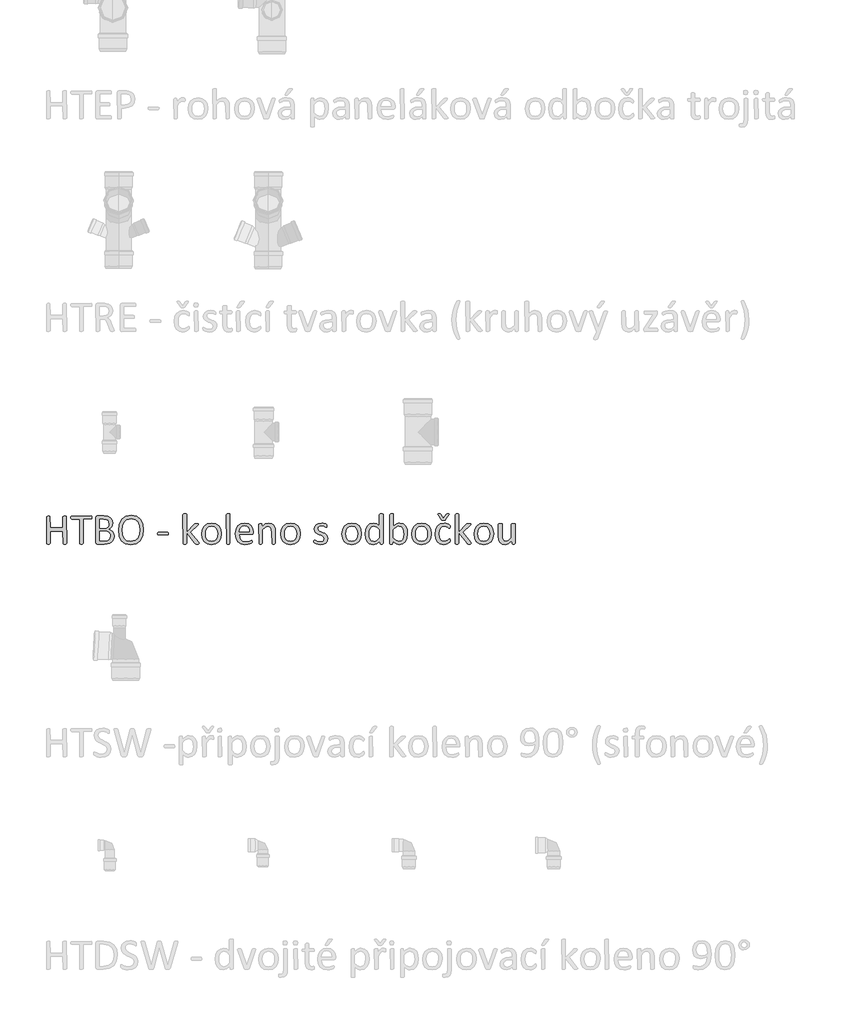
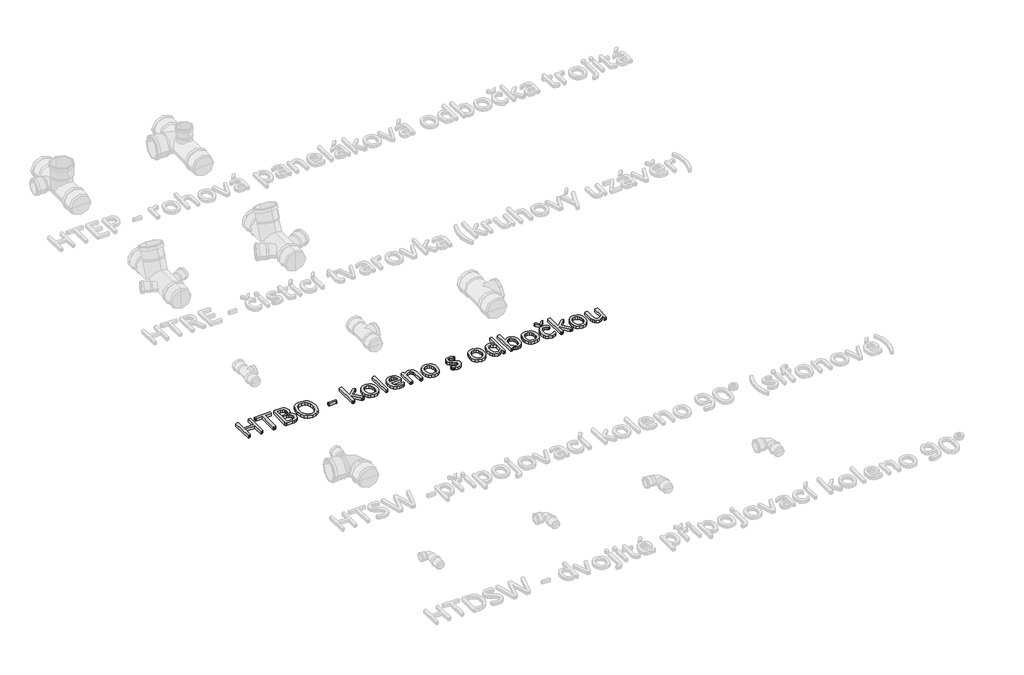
# One storey, part 7 of 26: 1 proxy.
"""IFC4 building model written with IfcOpenShell, lengths in millimetres."""

from ifc_helpers import new_model, si_unit, origin, origin_with_axes, place, context, project, spatial, polyline, outline, extrude, element, save

model = new_model("IFC4")

# Units and contexts
model_context = context("Model", 3, world=origin())
ifc_project = project(units=[si_unit("LENGTHUNIT", "METRE", prefix="MILLI")], contexts=[model_context])

# Site, building, storey
site = spatial("IfcSite", under=ifc_project)
building = spatial("IfcBuilding", under=site)
storey = spatial("IfcBuildingStorey", under=building, Name="Podlaží 1", Elevation=0.0)

# Proxy
placement = place(None, origin())
element("IfcBuildingElementProxy", 1, Name="120mm Arial", ObjectType="120mm Arial", at=placement, inside=storey, context=model_context, shape_type="SweptSolid", body=[
    extrude(outline(polyline([(-20465.0657483, -1221.9493003), (-20469.2817655, -1224.6815689), (-20473.1358927, -1224.9167974), (-20477.1166815, -1224.6815689), (-20479.5775327, -1224.1387341), (-20481.2784151, -1169.3305111), (-20534.5486061, -1169.3305111), (-20534.5486061, -1221.9854893), (-20538.7465288, -1224.6815689), (-20542.6549395, -1224.9167974), (-20546.5271613, -1224.6815689), (-20549.0603905, -1224.1206396), (-20550.7612729, -1107.4473409), (-20546.5271613, -1104.7150723), (-20542.6549395, -1104.4798438), (-20538.7465288, -1104.7150723), (-20536.2494886, -1105.2760016), (-20534.5486061, -1155.4339396), (-20481.2784151, -1155.4339396), (-20481.2784151, -1107.4473409), (-20477.1166815, -1104.7150723), (-20473.1358927, -1104.4798438), (-20469.2817655, -1104.7150723), (-20466.7666308, -1105.2760016), (-20465.0657483, -1221.9493003)])), origin_with_axes(), (0.0, 0.0, 1.0), 15.0),
    extrude(outline(polyline([(-20356.2092711, -1111.5366966), (-20356.390216, -1114.6670441), (-20356.9873343, -1116.8021944), (-20393.2667952, -1118.3764154), (-20393.2667952, -1221.9493003), (-20397.4647179, -1224.6815689), (-20401.3731287, -1224.9167974), (-20405.2453504, -1224.6815689), (-20407.7785796, -1224.1206396), (-20409.4794621, -1118.3764154), (-20443.3885442, -1118.3764154), (-20446.3017578, -1114.6670441), (-20446.5369862, -1111.5366966), (-20446.3017578, -1108.3339711), (-20445.686545, -1106.0902538), (-20359.3939021, -1104.4798438), (-20357.0054288, -1106.0902538), (-20356.390216, -1108.3339711), (-20356.2092711, -1111.5366966)])), origin_with_axes(), (0.0, 0.0, 1.0), 15.0),
    extrude(outline(polyline([(-20261.2493654, -1190.8629592), (-20262.6788305, -1201.1768209), (-20266.6958082, -1209.6812332), (-20272.9203142, -1216.2857236), (-20281.1352146, -1221.0626701), (-20290.9243359, -1223.9577892), (-20302.8667021, -1224.9167974), (-20334.0977991, -1224.9167974), (-20338.0966824, -1223.4692378), (-20339.9966043, -1218.4027794), (-20339.9966043, -1110.9938618), (-20338.0785879, -1105.9274034), (-20334.0254212, -1104.4798438), (-20306.6665459, -1104.4798438), (-20288.9520361, -1106.5607107), (-20277.4620322, -1112.6042717), (-20270.531841, -1122.3391096), (-20268.1976512, -1135.38524), (-20269.2290374, -1143.6906128), (-20272.2508179, -1151.018883), (-20277.2810873, -1157.0262551), (-20284.2293731, -1161.3689337), (-20275.2545039, -1164.7164151), (-20267.9805173, -1170.9228266), (-20263.0588148, -1179.7348453), (-20261.2493654, -1190.8629592)]), holes=[polyline([(-20284.410318, -1137.5565793), (-20285.6226491, -1129.5588128), (-20289.4224929, -1123.4971573), (-20296.1898338, -1119.6973135), (-20307.2455697, -1118.3764154), (-20323.7839374, -1118.3764154), (-20323.7839374, -1157.7500348), (-20305.5808763, -1157.7500348), (-20295.5565265, -1156.1034359), (-20289.241548, -1151.6883793), (-20285.5683657, -1145.2105503), (-20284.410318, -1137.5565793)]), polyline([(-20277.4620322, -1191.0077152), (-20279.1629147, -1181.6709562), (-20284.1389006, -1174.9036153), (-20292.353801, -1170.7418817), (-20304.7847185, -1169.3305111), (-20323.7839374, -1169.3305111), (-20323.7839374, -1211.0202258), (-20300.7315518, -1211.0202258), (-20291.2138479, -1209.7355167), (-20284.0665226, -1205.9356729), (-20279.2171982, -1199.6749779), (-20277.4620322, -1191.0077152)])]), origin_with_axes(), (0.0, 0.0, 1.0), 15.0),
    extrude(outline(polyline([(-20136.1802214, -1163.2869501), (-20139.5819863, -1189.8496676), (-20149.751092, -1210.0069341), (-20166.7418221, -1222.781647), (-20190.60846, -1227.2328926), (-20213.8417906, -1223.1435369), (-20230.0544574, -1211.2735487), (-20239.5902558, -1191.9305344), (-20242.7206033, -1165.3497224), (-20239.3188384, -1139.2574617), (-20229.0954492, -1119.2992346), (-20212.0504356, -1106.6149942), (-20188.2199868, -1102.1637486), (-20165.2761681, -1106.1988208), (-20149.0273123, -1117.9783365), (-20139.3648524, -1137.1404059), (-20136.1802214, -1163.2869501)]), holes=[polyline([(-20152.3928882, -1164.5173757), (-20154.2204321, -1145.3010228), (-20160.2820877, -1129.9026082), (-20171.6092411, -1119.715408), (-20189.1609005, -1116.0603201), (-20206.7125598, -1120.0049199), (-20218.2387527, -1130.517821), (-20224.5899201, -1145.8619521), (-20226.5079365, -1164.3364307), (-20224.7346761, -1184.0413349), (-20218.763493, -1199.5845055), (-20207.5087176, -1209.7174222), (-20189.8123022, -1213.3363211), (-20172.0977924, -1209.3917213), (-20160.5173161, -1198.7340642), (-20154.2566211, -1183.1908937), (-20152.3928882, -1164.5173757)])]), origin_with_axes(), (0.0, 0.0, 1.0), 15.0),
    extrude(outline(polyline([(-20029.6398394, -1179.7167508), (-20030.4902807, -1184.2765633), (-20032.9692264, -1185.5431779), (-20072.5599797, -1185.5431779), (-20075.1113034, -1184.2403744), (-20075.9617446, -1179.7167508), (-20075.1113034, -1175.2293162), (-20072.5599797, -1173.9627016), (-20032.9692264, -1173.9627016), (-20029.8750678, -1177.0025767), (-20029.6398394, -1179.7167508)])), origin_with_axes(), (0.0, 0.0, 1.0), 15.0),
    extrude(outline(polyline([(-19897.6224096, -1221.9854893), (-19901.6936708, -1224.7358524), (-19905.692554, -1224.9167974), (-19909.8180987, -1224.7720414), (-19912.5684618, -1224.3196791), (-19914.3779112, -1223.4149543), (-19915.6445258, -1221.9854893), (-19950.8926006, -1176.4235529), (-19950.8926006, -1222.0940563), (-19955.0181453, -1224.7358524), (-19959.035123, -1224.9167974), (-19962.9797227, -1224.7358524), (-19965.4767629, -1224.1749231), (-19967.1052674, -1098.1829599), (-19962.9797227, -1095.3964077), (-19959.035123, -1095.2154628), (-19955.0181453, -1095.3964077), (-19952.5753885, -1095.9573371), (-19951.2906795, -1096.8982508), (-19950.8926006, -1174.3245915), (-19918.6844009, -1140.0898085), (-19917.0739909, -1138.5879654), (-19915.0474075, -1137.5927683), (-19912.2608554, -1137.0499334), (-19908.3705392, -1136.9051775), (-19904.3897504, -1137.0499334), (-19901.8022378, -1137.5022958), (-19900.3727727, -1138.316548), (-19900.5718122, -1141.8449744), (-19902.688868, -1144.3962981), (-19934.6799338, -1174.2160246), (-19899.9023159, -1217.6789997), (-19898.1471499, -1220.1941344), (-19897.6224096, -1221.9854893)])), origin_with_axes(), (0.0, 0.0, 1.0), 15.0),
    extrude(outline(polyline([(-19802.6625039, -1180.0062627), (-19805.3404891, -1198.9873871), (-19813.35635, -1213.9334394), (-19826.7100868, -1223.7225607), (-19845.2931323, -1227.2328926), (-19863.2066816, -1224.1387341), (-19875.9452055, -1215.1457705), (-19883.5448931, -1200.8149311), (-19886.0419333, -1181.7071452), (-19883.4001371, -1162.7260207), (-19875.4385597, -1147.798063), (-19862.1391064, -1138.0632251), (-19843.5198719, -1134.5890822), (-19825.5882281, -1137.6832407), (-19812.8497042, -1146.6762044), (-19805.2138276, -1161.0070438), (-19802.6625039, -1180.0062627)]), holes=[polyline([(-19818.8751708, -1181.0919324), (-19820.1236909, -1168.5162589), (-19824.2311411, -1158.1300192), (-19831.9574901, -1151.0731665), (-19844.1350847, -1148.4856538), (-19855.6974665, -1150.8560325), (-19863.659044, -1157.5509954), (-19868.309329, -1167.7924791), (-19869.8292665, -1180.7300425), (-19868.5807464, -1193.3780939), (-19864.4371072, -1203.7281446), (-19856.6564747, -1210.7488084), (-19844.4969746, -1213.3363211), (-19832.9707818, -1210.9659423), (-19824.9549208, -1204.3252629), (-19820.3408248, -1194.1199682), (-19818.8751708, -1181.0919324)])]), origin_with_axes(), (0.0, 0.0, 1.0), 15.0),
    extrude(outline(polyline([(-19765.6049798, -1222.0578673), (-19769.7305245, -1224.7358524), (-19773.7475022, -1224.9167974), (-19777.6921019, -1224.7358524), (-19780.1891421, -1224.1749231), (-19781.8176466, -1098.1829599), (-19777.6921019, -1095.3964077), (-19773.7475022, -1095.2154628), (-19769.7305245, -1095.3964077), (-19767.2877677, -1095.9573371), (-19765.6049798, -1222.0578673)])), origin_with_axes(), (0.0, 0.0, 1.0), 15.0),
    extrude(outline(polyline([(-19666.0128836, -1176.6044978), (-19667.8042385, -1181.7071452), (-19671.9116887, -1183.2270827), (-19726.2313604, -1183.2270827), (-19724.8742733, -1196.6170084), (-19720.3687442, -1206.8223031), (-19712.1538439, -1213.3725101), (-19699.7772098, -1215.6524163), (-19689.4995371, -1214.5848412), (-19681.6827156, -1212.1782734), (-19676.2724618, -1209.7717057), (-19673.0697363, -1208.7041305), (-19670.7717356, -1211.5992496), (-19670.6450741, -1214.2410458), (-19670.7355466, -1216.1771567), (-19675.1867922, -1221.5693159), (-19681.5379596, -1224.0663561), (-19690.5852068, -1226.2557899), (-19701.5504702, -1227.2328926), (-19719.2287911, -1224.3377735), (-19731.9854095, -1215.7247943), (-19739.802231, -1201.3758604), (-19742.4440272, -1181.3452553), (-19739.6755696, -1161.8032015), (-19731.6958976, -1147.1104722), (-19719.1021296, -1137.8279967), (-19702.5637619, -1134.5890822), (-19685.9168272, -1137.7194297), (-19674.6077684, -1146.151464), (-19668.0937504, -1158.5823816), (-19666.0128836, -1173.8179457), (-19666.0128836, -1176.6044978)]), holes=[polyline([(-19682.2255504, -1171.6466064), (-19683.3971689, -1161.0206147), (-19687.4186703, -1152.9549939), (-19694.1905347, -1147.8659174), (-19703.6132426, -1146.1695585), (-19713.257608, -1148.2685199), (-19720.1877993, -1153.8597186), (-19724.5123834, -1161.9841465), (-19726.2313604, -1171.6466064), (-19682.2255504, -1171.6466064)])]), origin_with_axes(), (0.0, 0.0, 1.0), 15.0),
    extrude(outline(polyline([(-19571.0529779, -1222.0578673), (-19575.1785226, -1224.7358524), (-19579.1231224, -1224.9167974), (-19583.1401001, -1224.7358524), (-19585.5828568, -1224.1930176), (-19587.2656448, -1173.7093787), (-19588.3332199, -1162.3460364), (-19591.4273784, -1154.9091992), (-19596.6928762, -1150.1322528), (-19604.1659024, -1148.4856538), (-19615.1492604, -1152.520726), (-19626.6392642, -1164.3726197), (-19626.6392642, -1222.0578673), (-19630.7648089, -1224.7358524), (-19634.7817866, -1224.9167974), (-19638.7263863, -1224.7358524), (-19641.2234265, -1224.1930176), (-19642.851931, -1139.7279186), (-19639.1244652, -1137.0499334), (-19635.4693774, -1136.9051775), (-19631.8866675, -1137.0499334), (-19629.6791392, -1137.5927683), (-19628.1953907, -1150.6208041), (-19614.3531026, -1138.4432095), (-19600.4384366, -1134.5890822), (-19586.614243, -1137.4118233), (-19577.5308069, -1144.9572274), (-19572.554821, -1156.0129634), (-19571.0529779, -1171.2485275), (-19571.0529779, -1222.0578673)])), origin_with_axes(), (0.0, 0.0, 1.0), 15.0),
    extrude(outline(polyline([(-19464.512596, -1180.0062627), (-19467.1905811, -1198.9873871), (-19475.2064421, -1213.9334394), (-19488.5601788, -1223.7225607), (-19507.1432244, -1227.2328926), (-19525.0567736, -1224.1387341), (-19537.7952976, -1215.1457705), (-19545.3949851, -1200.8149311), (-19547.8920253, -1181.7071452), (-19545.2502292, -1162.7260207), (-19537.2886517, -1147.798063), (-19523.9891985, -1138.0632251), (-19505.3699639, -1134.5890822), (-19487.4383202, -1137.6832407), (-19474.6997962, -1146.6762044), (-19467.0639197, -1161.0070438), (-19464.512596, -1180.0062627)]), holes=[polyline([(-19480.7252628, -1181.0919324), (-19481.9737829, -1168.5162589), (-19486.0812331, -1158.1300192), (-19493.8075821, -1151.0731665), (-19505.9851767, -1148.4856538), (-19517.5475585, -1150.8560325), (-19525.509136, -1157.5509954), (-19530.159421, -1167.7924791), (-19531.6793585, -1180.7300425), (-19530.4308384, -1193.3780939), (-19526.2871992, -1203.7281446), (-19518.5065667, -1210.7488084), (-19506.3470666, -1213.3363211), (-19494.8208738, -1210.9659423), (-19486.8050129, -1204.3252629), (-19482.1909168, -1194.1199682), (-19480.7252628, -1181.0919324)])]), origin_with_axes(), (0.0, 0.0, 1.0), 15.0),
    extrude(outline(polyline([(-19346.3917377, -1200.1635293), (-19348.7983055, -1211.6897221), (-19355.6561188, -1220.2122289), (-19366.2413979, -1225.4596322), (-19379.7579851, -1227.2328926), (-19388.4252478, -1226.4005459), (-19395.7897069, -1224.2834901), (-19401.3085277, -1221.6055049), (-19404.6198201, -1219.0903702), (-19406.1397576, -1216.4304796), (-19406.6102145, -1212.2144624), (-19406.4292695, -1209.4821938), (-19405.9588127, -1207.6908389), (-19401.0009213, -1207.8355948), (-19396.0792188, -1211.0202258), (-19389.1490276, -1214.2048568), (-19379.975119, -1215.6524163), (-19372.9182662, -1214.7657861), (-19367.4356345, -1212.1420844), (-19363.8529246, -1207.7270279), (-19362.6044045, -1201.3939549), (-19364.3957595, -1195.4046773), (-19369.1546114, -1191.0800932), (-19375.7952908, -1187.7507062), (-19383.3949784, -1184.7108312), (-19391.0489495, -1181.1100269), (-19397.7439123, -1176.1883244), (-19402.5027643, -1169.2581331), (-19404.2941192, -1159.5956732), (-19402.3761028, -1150.0960638), (-19396.6220537, -1142.1344863), (-19387.0319717, -1136.6518546), (-19373.569668, -1134.5890822), (-19366.8385162, -1135.204295), (-19360.7587661, -1136.7604215), (-19356.1265756, -1138.7870049), (-19353.2314565, -1140.7050213), (-19351.928653, -1142.0802028), (-19351.1686842, -1144.9210384), (-19351.0239282, -1147.3276062), (-19351.1686842, -1149.9513078), (-19351.639141, -1151.7788517), (-19356.0180086, -1152.0140802), (-19360.2340258, -1149.6437014), (-19366.3137759, -1147.2733227), (-19374.2934478, -1146.1695585), (-19381.3864895, -1147.0923777), (-19386.4167589, -1149.7160794), (-19389.384256, -1153.7330571), (-19390.3975477, -1158.7633265), (-19388.4795313, -1164.89736), (-19383.4673564, -1169.2581331), (-19376.4285981, -1172.6237091), (-19368.3946427, -1175.6997731), (-19360.3064038, -1179.2643885), (-19353.2314565, -1184.0413349), (-19348.2735651, -1190.7905813), (-19346.3917377, -1200.1635293)])), origin_with_axes(), (0.0, 0.0, 1.0), 15.0),
    extrude(outline(polyline([(-19202.7938316, -1180.0062627), (-19205.4718167, -1198.9873871), (-19213.4876777, -1213.9334394), (-19226.8414144, -1223.7225607), (-19245.42446, -1227.2328926), (-19263.3380093, -1224.1387341), (-19276.0765332, -1215.1457705), (-19283.6762208, -1200.8149311), (-19286.173261, -1181.7071452), (-19283.5314648, -1162.7260207), (-19275.5698873, -1147.798063), (-19262.2704341, -1138.0632251), (-19243.6511995, -1134.5890822), (-19225.7195558, -1137.6832407), (-19212.9810318, -1146.6762044), (-19205.3451553, -1161.0070438), (-19202.7938316, -1180.0062627)]), holes=[polyline([(-19219.0064984, -1181.0919324), (-19220.2550185, -1168.5162589), (-19224.3624687, -1158.1300192), (-19232.0888177, -1151.0731665), (-19244.2664123, -1148.4856538), (-19255.8287942, -1150.8560325), (-19263.7903716, -1157.5509954), (-19268.4406566, -1167.7924791), (-19269.9605941, -1180.7300425), (-19268.712074, -1193.3780939), (-19264.5684349, -1203.7281446), (-19256.7878023, -1210.7488084), (-19244.6283022, -1213.3363211), (-19233.1021094, -1210.9659423), (-19225.0862485, -1204.3252629), (-19220.4721525, -1194.1199682), (-19219.0064984, -1181.0919324)])]), origin_with_axes(), (0.0, 0.0, 1.0), 15.0),
    extrude(outline(polyline([(-19110.4757221, -1222.0216783), (-19113.8593925, -1224.7358524), (-19117.170685, -1224.9167974), (-19120.6086389, -1224.7358524), (-19122.8523561, -1224.2653956), (-19124.5170496, -1211.9611395), (-19137.9612588, -1223.1978204), (-19153.2149174, -1227.2328926), (-19168.6314265, -1223.6320883), (-19178.9633827, -1213.8972504), (-19184.7536209, -1199.457844), (-19186.5811648, -1181.9966571), (-19184.3012585, -1162.3641309), (-19177.5701067, -1147.4180786), (-19166.5324652, -1137.9184692), (-19151.2969011, -1134.5890822), (-19138.1422038, -1137.8279967), (-19126.362688, -1147.3276062), (-19126.362688, -1098.2191488), (-19124.6979946, -1096.0116206), (-19122.2009543, -1095.4506912), (-19118.3649216, -1095.2154628), (-19114.3479439, -1095.4506912), (-19111.9051871, -1096.0116206), (-19110.5842891, -1096.9344398), (-19110.4757221, -1222.0216783)]), holes=[polyline([(-19126.362688, -1163.8297849), (-19137.9793533, -1152.412159), (-19149.6683966, -1148.4856538), (-19159.2584785, -1151.2360169), (-19165.6639295, -1158.4919091), (-19169.2466393, -1168.6972038), (-19170.368498, -1180.2595856), (-19169.4275843, -1192.4914637), (-19166.1524808, -1203.0948373), (-19159.9641638, -1210.5316745), (-19150.2836094, -1213.3363211), (-19144.6019382, -1212.5220688), (-19138.992645, -1209.8259892), (-19133.0033674, -1204.9404757), (-19126.362688, -1197.5217331), (-19126.362688, -1163.8297849)])]), origin_with_axes(), (0.0, 0.0, 1.0), 15.0),
    extrude(outline(polyline([(-19005.9257345, -1179.8253178), (-19008.2418298, -1199.5483165), (-19015.0634541, -1214.4943687), (-19026.1372845, -1223.9577892), (-19041.1738092, -1227.2328926), (-19048.4116069, -1226.4367349), (-19054.9256248, -1223.8492222), (-19061.2948868, -1219.3436931), (-19068.0260387, -1212.7934862), (-19068.0260387, -1222.2388122), (-19071.9163549, -1224.7358524), (-19075.3000253, -1224.9167974), (-19078.6294123, -1224.7358524), (-19080.891224, -1224.2292066), (-19082.3568781, -1098.1829599), (-19078.2313334, -1095.3964077), (-19074.2867337, -1095.2154628), (-19070.2697559, -1095.3964077), (-19067.8269992, -1095.9573371), (-19066.5422901, -1096.8982508), (-19066.1442113, -1148.4494648), (-19059.105453, -1141.9897304), (-19052.4285846, -1137.7194297), (-19045.8964722, -1135.3309565), (-19039.0024699, -1134.5890822), (-19023.7850003, -1138.2441701), (-19013.5073276, -1148.0332914), (-19007.7351839, -1162.4184143), (-19005.9257345, -1179.8253178)]), holes=[polyline([(-19022.1384013, -1181.5985782), (-19023.079315, -1169.2762276), (-19026.372513, -1158.6909485), (-19032.5789245, -1151.2903004), (-19042.2232899, -1148.4856538), (-19047.8687721, -1149.299906), (-19053.5323488, -1152.0140802), (-19059.5216264, -1156.8814991), (-19066.1442113, -1164.3726197), (-19066.1442113, -1197.99219), (-19054.455168, -1209.4098158), (-19042.8385027, -1213.3363211), (-19033.3027043, -1210.5678634), (-19026.8610643, -1203.2576878), (-19023.26026, -1193.052393), (-19022.1384013, -1181.5985782)])]), origin_with_axes(), (0.0, 0.0, 1.0), 15.0),
    extrude(outline(polyline([(-18904.0175431, -1180.0062627), (-18906.6955282, -1198.9873871), (-18914.7113891, -1213.9334394), (-18928.0651259, -1223.7225607), (-18946.6481714, -1227.2328926), (-18964.5617207, -1224.1387341), (-18977.3002446, -1215.1457705), (-18984.8999322, -1200.8149311), (-18987.3969724, -1181.7071452), (-18984.7551763, -1162.7260207), (-18976.7935988, -1147.798063), (-18963.4941456, -1138.0632251), (-18944.874911, -1134.5890822), (-18926.9432672, -1137.6832407), (-18914.2047433, -1146.6762044), (-18906.5688667, -1161.0070438), (-18904.0175431, -1180.0062627)]), holes=[polyline([(-18920.2302099, -1181.0919324), (-18921.47873, -1168.5162589), (-18925.5861802, -1158.1300192), (-18933.3125292, -1151.0731665), (-18945.4901238, -1148.4856538), (-18957.0525056, -1150.8560325), (-18965.0140831, -1157.5509954), (-18969.6643681, -1167.7924791), (-18971.1843056, -1180.7300425), (-18969.9357855, -1193.3780939), (-18965.7921463, -1203.7281446), (-18958.0115138, -1210.7488084), (-18945.8520137, -1213.3363211), (-18934.3258209, -1210.9659423), (-18926.3099599, -1204.3252629), (-18921.6958639, -1194.1199682), (-18920.2302099, -1181.0919324)])]), origin_with_axes(), (0.0, 0.0, 1.0), 15.0),
    extrude(outline(polyline([(-18822.954209, -1208.2698627), (-18823.0446814, -1210.8030919), (-18823.3703823, -1212.6125413), (-18825.3607767, -1216.2495346), (-18829.2510929, -1219.777961), (-18835.4213155, -1223.5235213), (-18842.8581526, -1226.2015065), (-18851.1816199, -1227.2328926), (-18866.8876409, -1224.2292066), (-18878.3414558, -1215.4533769), (-18885.380214, -1201.3034824), (-18887.8048762, -1181.9604681), (-18884.8373792, -1160.5184924), (-18876.7129513, -1145.8438576), (-18864.5715457, -1137.3575398), (-18849.4445485, -1134.5890822), (-18841.8086719, -1135.4033345), (-18835.0051421, -1137.5384848), (-18829.4682269, -1140.5783598), (-18825.957895, -1143.5277624), (-18824.456052, -1145.4638733), (-18823.7684612, -1147.0019053), (-18823.4065713, -1148.9018272), (-18823.3160988, -1151.5617178), (-18824.1303511, -1156.3748533), (-18826.102651, -1157.7500348), (-18829.2329985, -1156.3024753), (-18833.7023385, -1153.1178443), (-18840.2706399, -1149.9332133), (-18849.3359815, -1148.4856538), (-18858.8582091, -1150.5846151), (-18865.8562548, -1156.8814991), (-18870.1582208, -1167.1772663), (-18871.5922094, -1181.2728773), (-18870.1084609, -1195.2780158), (-18865.7295933, -1205.3385546), (-18858.6184571, -1211.3640212), (-18848.9740916, -1213.3363211), (-18839.944939, -1211.5087771), (-18833.2137872, -1207.4917994), (-18828.4187462, -1203.5291052), (-18825.3788712, -1201.7558448), (-18823.0808704, -1205.3204601), (-18822.954209, -1208.2698627)])), origin_with_axes(), (0.0, 0.0, 1.0), 15.0),
    extrude(outline(polyline([(-18840.3249234, -1097.8934479), (-18839.1668758, -1096.6087389), (-18835.8736778, -1095.3421243), (-18832.9785588, -1095.2154628), (-18829.1968095, -1095.5230692), (-18827.38736, -1096.4096994), (-18828.7444471, -1100.2095432), (-18843.6904993, -1120.6925107), (-18844.8666415, -1121.8505583), (-18846.4589569, -1122.5200546), (-18848.7750522, -1122.8819445), (-18852.1225336, -1123.0086059), (-18855.2709756, -1122.8819445), (-18857.4965984, -1122.4838656), (-18859.0346304, -1121.7600858), (-18875.0663523, -1100.2095432), (-18876.4596284, -1097.9839204), (-18874.5597065, -1095.5230692), (-18870.7960517, -1095.2154628), (-18867.6837987, -1095.3421243), (-18865.8019713, -1095.7944866), (-18863.485876, -1097.8934479), (-18851.9053997, -1114.0699258), (-18840.3249234, -1097.8934479)])), origin_with_axes(), (0.0, 0.0, 1.0), 15.0),
    extrude(outline(polyline([(-18732.6264938, -1221.9854893), (-18736.697755, -1224.7358524), (-18740.6966382, -1224.9167974), (-18744.8221829, -1224.7720414), (-18747.572546, -1224.3196791), (-18749.3819955, -1223.4149543), (-18750.6486101, -1221.9854893), (-18785.8966848, -1176.4235529), (-18785.8966848, -1222.0940563), (-18790.0222295, -1224.7358524), (-18794.0392072, -1224.9167974), (-18797.9838069, -1224.7358524), (-18800.4808471, -1224.1749231), (-18802.1093516, -1098.1829599), (-18797.9838069, -1095.3964077), (-18794.0392072, -1095.2154628), (-18790.0222295, -1095.3964077), (-18787.5794728, -1095.9573371), (-18786.2947637, -1096.8982508), (-18785.8966848, -1174.3245915), (-18753.6884851, -1140.0898085), (-18752.0780751, -1138.5879654), (-18750.0514918, -1137.5927683), (-18747.2649396, -1137.0499334), (-18743.3746234, -1136.9051775), (-18739.3938347, -1137.0499334), (-18736.806322, -1137.5022958), (-18735.3768569, -1138.316548), (-18735.5758964, -1141.8449744), (-18737.6929522, -1144.3962981), (-18769.684018, -1174.2160246), (-18734.9064001, -1217.6789997), (-18733.1512342, -1220.1941344), (-18732.6264938, -1221.9854893)])), origin_with_axes(), (0.0, 0.0, 1.0), 15.0),
    extrude(outline(polyline([(-18637.6665882, -1180.0062627), (-18640.3445733, -1198.9873871), (-18648.3604342, -1213.9334394), (-18661.714171, -1223.7225607), (-18680.2972165, -1227.2328926), (-18698.2107658, -1224.1387341), (-18710.9492897, -1215.1457705), (-18718.5489773, -1200.8149311), (-18721.0460175, -1181.7071452), (-18718.4042214, -1162.7260207), (-18710.4426439, -1147.798063), (-18697.1431907, -1138.0632251), (-18678.5239561, -1134.5890822), (-18660.5923123, -1137.6832407), (-18647.8537884, -1146.6762044), (-18640.2179118, -1161.0070438), (-18637.6665882, -1180.0062627)]), holes=[polyline([(-18653.879255, -1181.0919324), (-18655.1277751, -1168.5162589), (-18659.2352253, -1158.1300192), (-18666.9615743, -1151.0731665), (-18679.1391689, -1148.4856538), (-18690.7015507, -1150.8560325), (-18698.6631282, -1157.5509954), (-18703.3134132, -1167.7924791), (-18704.8333507, -1180.7300425), (-18703.5848306, -1193.3780939), (-18699.4411914, -1203.7281446), (-18691.6605589, -1210.7488084), (-18679.5010588, -1213.3363211), (-18667.974866, -1210.9659423), (-18659.959005, -1204.3252629), (-18655.344909, -1194.1199682), (-18653.879255, -1181.0919324)])]), origin_with_axes(), (0.0, 0.0, 1.0), 15.0),
    extrude(outline(polyline([(-18545.0227778, -1222.0940563), (-18548.876905, -1224.7358524), (-18552.3329534, -1224.9167974), (-18556.0242302, -1224.7358524), (-18558.2679475, -1224.1930176), (-18559.6793181, -1211.2011707), (-18573.5577951, -1223.3968599), (-18587.4362722, -1227.2328926), (-18601.2604658, -1224.4463405), (-18610.3439019, -1216.9009364), (-18615.3198878, -1205.790917), (-18616.8217308, -1190.3563134), (-18616.8217308, -1139.7641076), (-18615.1570373, -1137.6108628), (-18612.6238082, -1137.0499334), (-18608.7153974, -1136.9051775), (-18604.8069867, -1137.0499334), (-18602.3280409, -1137.5927683), (-18601.0071429, -1138.497493), (-18600.609064, -1187.8230842), (-18599.5957723, -1199.421655), (-18596.4835193, -1206.8584921), (-18591.199927, -1211.6354386), (-18583.7449954, -1213.3363211), (-18572.7978264, -1209.2650599), (-18561.2354446, -1197.3045992), (-18561.2354446, -1139.7279186), (-18559.5707511, -1137.5927683), (-18557.0737109, -1137.0499334), (-18553.1291112, -1136.9051775), (-18549.2207004, -1137.0499334), (-18546.7779437, -1137.5927683), (-18545.4570456, -1138.497493), (-18545.0227778, -1222.0940563)])), origin_with_axes(), (0.0, 0.0, 1.0), 15.0),
])

save(model, "model.ifc")
